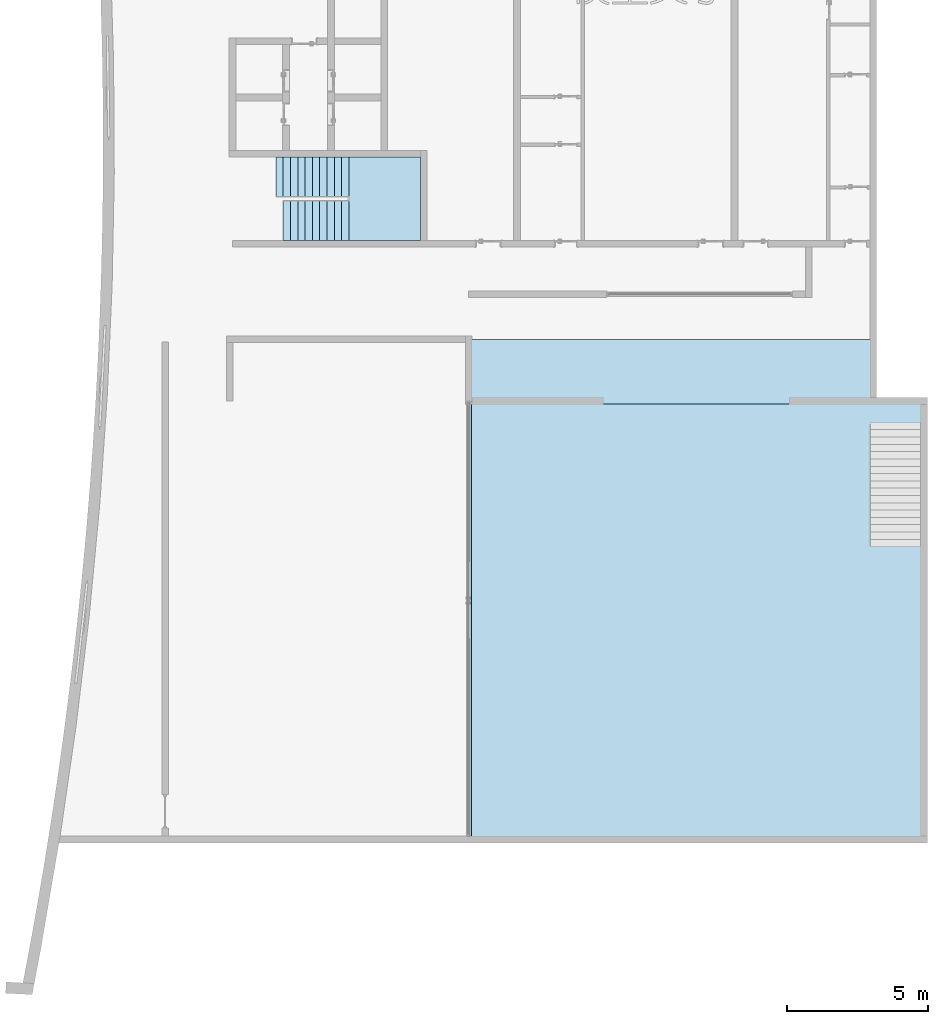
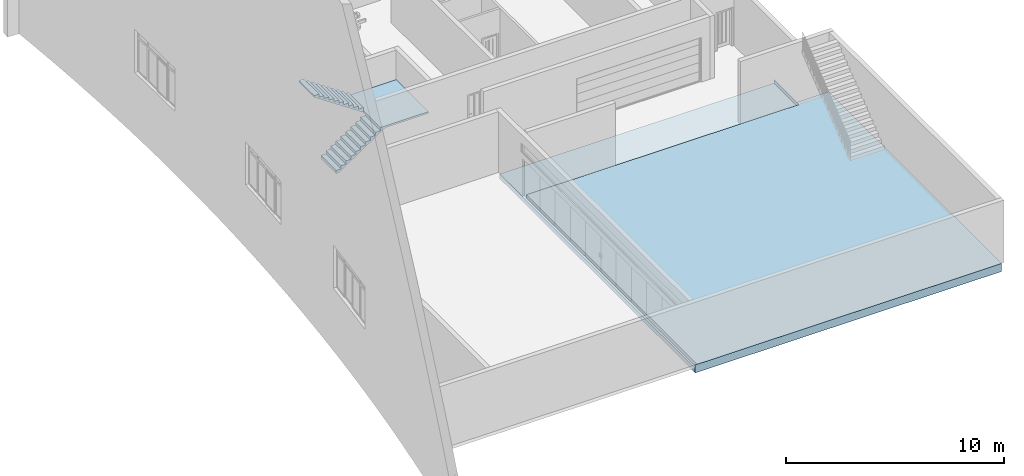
# One storey, part 22 of 24: 2 slabs, 1 element without a shape of its own.
"""IFC2X3 building model written with IfcOpenShell, lengths in millimetres."""

from ifc_helpers import new_model, entity, si_unit, converted_unit, derived_unit, direction, frame, origin, place, context, subcontext, project, spatial, faceted_brep, material, material_list, element, aggregate, save


model = new_model("IFC2X3")

# Units and contexts
model_context = context("Model", 3, precision=0.01, world=origin(), true_north=direction((6.12303176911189e-17, 1.0)))
body_context = subcontext(model_context, "Body", "Model", "MODEL_VIEW")
ifc_project = project(units=[si_unit("LENGTHUNIT", "METRE", prefix="MILLI"), si_unit("AREAUNIT", "SQUARE_METRE"), si_unit("VOLUMEUNIT", "CUBIC_METRE"), converted_unit("PLANEANGLEUNIT", "DEGREE", entity("IfcRatioMeasure", 0.0174532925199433), si_unit("PLANEANGLEUNIT", "RADIAN"), dimensions=[0, 0, 0, 0, 0, 0, 0]), si_unit("MASSUNIT", "GRAM", prefix="KILO"), derived_unit("MASSDENSITYUNIT", [(si_unit("MASSUNIT", "GRAM", prefix="KILO"), 1), (si_unit("LENGTHUNIT", "METRE"), -3)]), si_unit("TIMEUNIT", "SECOND"), si_unit("FREQUENCYUNIT", "HERTZ"), si_unit("THERMODYNAMICTEMPERATUREUNIT", "DEGREE_CELSIUS"), derived_unit("THERMALTRANSMITTANCEUNIT", [(si_unit("MASSUNIT", "GRAM", prefix="KILO"), 1), (si_unit("THERMODYNAMICTEMPERATUREUNIT", "KELVIN"), -1), (si_unit("TIMEUNIT", "SECOND"), -3)]), derived_unit("VOLUMETRICFLOWRATEUNIT", [(si_unit("LENGTHUNIT", "METRE"), 3), (si_unit("TIMEUNIT", "SECOND"), -1)]), si_unit("ELECTRICCURRENTUNIT", "AMPERE"), si_unit("ELECTRICVOLTAGEUNIT", "VOLT"), si_unit("POWERUNIT", "WATT"), si_unit("FORCEUNIT", "NEWTON", prefix="KILO"), si_unit("ILLUMINANCEUNIT", "LUX"), si_unit("LUMINOUSFLUXUNIT", "LUMEN"), si_unit("LUMINOUSINTENSITYUNIT", "CANDELA"), derived_unit("USERDEFINED", [(si_unit("MASSUNIT", "GRAM", prefix="KILO"), -1), (si_unit("LENGTHUNIT", "METRE"), -2), (si_unit("TIMEUNIT", "SECOND"), 3), (si_unit("LUMINOUSFLUXUNIT", "LUMEN"), 1)]), derived_unit("LINEARVELOCITYUNIT", [(si_unit("LENGTHUNIT", "METRE"), 1), (si_unit("TIMEUNIT", "SECOND"), -1)]), si_unit("PRESSUREUNIT", "PASCAL"), derived_unit("USERDEFINED", [(si_unit("LENGTHUNIT", "METRE"), -2), (si_unit("MASSUNIT", "GRAM", prefix="KILO"), 1), (si_unit("TIMEUNIT", "SECOND"), -2)])], contexts=[model_context])

# Site, building, storey
site_placement = place(None, origin())
site = spatial("IfcSite", under=ifc_project, at=site_placement, Name="表面", CompositionType="ELEMENT")
building_placement = place(site_placement, origin())
building = spatial("IfcBuilding", under=site, at=building_placement, CompositionType="ELEMENT")
storey_placement = place(building_placement, frame((0.0, 0.0, -3500.0)))
storey = spatial("IfcBuildingStorey", under=building, at=storey_placement, Name="-1F", CompositionType="ELEMENT", Elevation=-3500.0)

# Stair, slab
stair_placement = place(storey_placement, origin())
stair = element("IfcStair", 1, at=stair_placement, inside=storey, ShapeType="NOTDEFINED")
ifc_material_1 = material(Name="混凝土 - 现场浇注")
slab_1_placement = place(stair_placement, origin())
slab_1 = element("IfcSlab", 2, at=slab_1_placement, material=ifc_material_1, Name="楼梯:整体式楼梯:1", ObjectType="楼梯:整体式楼梯", PredefinedType="LANDING", context=body_context, shape_type="Brep", body=[
    faceted_brep([(-10086.9773737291, -7187.84591297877, 0.0), (-7635.54880230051, -7187.84591297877, 1650.0), (-7635.54880230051, -8587.84591297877, 1650.0), (-7890.24991264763, -8587.84591297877, 1478.56656034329), (-10086.9773737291, -8587.84591297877, 0.0), (-7890.24991264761, -7027.84591297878, 1650.0), (-7884.95102299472, -7027.84591297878, 1650.0), (-7884.95102299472, -5627.84591297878, 1650.0), (-5350.24991264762, -5627.84591297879, 1650.0), (-5350.24991264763, -8587.84591297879, 1650.0), (-7890.24991264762, -7187.84591297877, 1650.0), (-7890.24991264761, -7027.84591297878, 1653.56656034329), (-10490.2499126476, -7027.84591297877, 3403.56656034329), (-10490.2499126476, -5627.84591297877, 3403.56656034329), (-9970.24991264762, -7187.84591297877, 175.0), (-10230.2499126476, -7187.84591297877, 175.0), (-10230.2499126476, -8587.84591297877, 175.0), (-9970.24991264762, -8587.84591297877, 175.0), (-9970.24991264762, -7187.84591297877, 350.0), (-9710.24991264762, -7187.84591297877, 350.0), (-9710.24991264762, -7187.84591297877, 525.0), (-9450.24991264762, -7187.84591297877, 525.0), (-9450.24991264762, -7187.84591297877, 700.0), (-9190.24991264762, -7187.84591297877, 700.0), (-9190.24991264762, -7187.84591297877, 875.0), (-8930.24991264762, -7187.84591297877, 875.0), (-8930.24991264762, -7187.84591297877, 1050.0), (-8670.24991264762, -7187.84591297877, 1050.0), (-8670.24991264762, -7187.84591297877, 1225.0), (-8410.24991264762, -7187.84591297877, 1225.0), (-8410.24991264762, -7187.84591297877, 1400.0), (-8150.24991264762, -7187.84591297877, 1400.0), (-8150.24991264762, -7187.84591297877, 1575.0), (-7890.24991264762, -7187.84591297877, 1575.0), (-10230.2499126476, -7187.84591297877, 0.0), (-10230.2499126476, -8587.84591297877, 0.0), (-5350.24991264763, -8587.84591297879, 1750.0), (-7890.24991264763, -8587.84591297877, 1750.0), (-7890.24991264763, -8587.84591297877, 1575.0), (-8150.24991264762, -8587.84591297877, 1575.0), (-8150.24991264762, -8587.84591297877, 1400.0), (-8410.24991264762, -8587.84591297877, 1400.0), (-8410.24991264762, -8587.84591297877, 1225.0), (-8670.24991264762, -8587.84591297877, 1225.0), (-8670.24991264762, -8587.84591297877, 1050.0), (-8930.24991264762, -8587.84591297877, 1050.0), (-8930.24991264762, -8587.84591297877, 875.0), (-9190.24991264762, -8587.84591297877, 875.0), (-9190.24991264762, -8587.84591297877, 700.0), (-9450.24991264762, -8587.84591297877, 700.0), (-9450.24991264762, -8587.84591297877, 525.0), (-9710.24991264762, -8587.84591297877, 525.0), (-9710.24991264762, -8587.84591297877, 350.0), (-9970.24991264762, -8587.84591297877, 350.0), (-5350.24991264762, -5627.84591297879, 1750.0), (-7890.24991264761, -5627.84591297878, 1750.0), (-7890.24991264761, -7027.84591297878, 1750.0), (-7890.24991264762, -7187.84591297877, 1750.0), (-10490.2499126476, -5627.84591297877, 3500.0), (-10230.2499126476, -5627.84591297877, 3500.0), (-10230.2499126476, -5627.84591297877, 3325.0), (-9970.24991264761, -5627.84591297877, 3325.0), (-9970.24991264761, -5627.84591297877, 3150.0), (-9710.24991264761, -5627.84591297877, 3150.0), (-9710.24991264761, -5627.84591297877, 2975.0), (-9450.24991264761, -5627.84591297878, 2975.0), (-9450.24991264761, -5627.84591297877, 2800.0), (-9190.24991264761, -5627.84591297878, 2800.0), (-9190.24991264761, -5627.84591297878, 2625.0), (-8930.24991264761, -5627.84591297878, 2625.0), (-8930.24991264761, -5627.84591297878, 2450.0), (-8670.24991264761, -5627.84591297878, 2450.0), (-8670.24991264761, -5627.84591297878, 2275.0), (-8410.24991264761, -5627.84591297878, 2275.0), (-8410.24991264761, -5627.84591297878, 2100.0), (-8150.24991264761, -5627.84591297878, 2100.0), (-8150.24991264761, -5627.84591297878, 1925.0), (-7890.24991264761, -5627.84591297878, 1925.0), (-8150.24991264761, -7027.84591297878, 1925.0), (-7890.24991264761, -7027.84591297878, 1925.0), (-8150.24991264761, -7027.84591297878, 2100.0), (-8410.24991264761, -7027.84591297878, 2100.0), (-8410.24991264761, -7027.84591297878, 2275.0), (-8670.24991264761, -7027.84591297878, 2275.0), (-8670.24991264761, -7027.84591297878, 2450.0), (-8930.24991264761, -7027.84591297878, 2450.0), (-8930.24991264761, -7027.84591297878, 2625.0), (-9190.24991264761, -7027.84591297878, 2625.0), (-9190.24991264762, -7027.84591297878, 2800.0), (-9450.24991264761, -7027.84591297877, 2800.0), (-9450.24991264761, -7027.84591297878, 2975.0), (-9710.24991264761, -7027.84591297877, 2975.0), (-9710.24991264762, -7027.84591297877, 3150.0), (-9970.24991264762, -7027.84591297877, 3150.0), (-9970.24991264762, -7027.84591297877, 3325.0), (-10230.2499126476, -7027.84591297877, 3325.0), (-10230.2499126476, -7027.84591297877, 3500.0), (-10490.2499126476, -7027.84591297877, 3500.0)], [[[0, 1, 2, 3, 4]], [[5, 6, 7, 8, 9, 2, 1, 10]], [[6, 5, 11]], [[7, 6, 11, 12, 13]], [[14, 15, 16, 17]], [[15, 14, 18, 19, 20, 21, 22, 23, 24, 25, 26, 27, 28, 29, 30, 31, 32, 33, 10, 1, 0, 34]], [[16, 15, 34, 35]], [[17, 16, 35, 4, 3, 2, 9, 36, 37, 38, 39, 40, 41, 42, 43, 44, 45, 46, 47, 48, 49, 50, 51, 52, 53]], [[19, 18, 53, 52]], [[14, 17, 53, 18]], [[21, 20, 51, 50]], [[20, 19, 52, 51]], [[23, 22, 49, 48]], [[22, 21, 50, 49]], [[25, 24, 47, 46]], [[24, 23, 48, 47]], [[27, 26, 45, 44]], [[26, 25, 46, 45]], [[29, 28, 43, 42]], [[28, 27, 44, 43]], [[31, 30, 41, 40]], [[30, 29, 42, 41]], [[33, 32, 39, 38]], [[32, 31, 40, 39]], [[37, 36, 54, 55, 56, 57]], [[57, 56, 11, 5, 10]], [[38, 37, 57, 10, 33]], [[54, 36, 9, 8]], [[55, 54, 8, 7, 13, 58, 59, 60, 61, 62, 63, 64, 65, 66, 67, 68, 69, 70, 71, 72, 73, 74, 75, 76, 77]], [[77, 76, 78, 79]], [[79, 78, 80, 81, 82, 83, 84, 85, 86, 87, 88, 89, 90, 91, 92, 93, 94, 95, 96, 97, 12, 11, 56]], [[56, 55, 77, 79]], [[75, 74, 81, 80]], [[76, 75, 80, 78]], [[73, 72, 83, 82]], [[74, 73, 82, 81]], [[71, 70, 85, 84]], [[72, 71, 84, 83]], [[69, 68, 87, 86]], [[70, 69, 86, 85]], [[67, 66, 89, 88]], [[68, 67, 88, 87]], [[65, 64, 91, 90]], [[66, 65, 90, 89]], [[63, 62, 93, 92]], [[64, 63, 92, 91]], [[61, 60, 95, 94]], [[62, 61, 94, 93]], [[35, 34, 0, 4]], [[59, 58, 97, 96]], [[60, 59, 96, 95]], [[97, 58, 13, 12]]]),
])
aggregate(stair, [slab_1])

# Slab
ifc_material_2 = material(Name="石材")
ifc_material_3 = material(Name="默认楼板")
ifc_material_list = material_list([ifc_material_2, ifc_material_3])
slab_2_placement = place(storey_placement, origin())
element("IfcSlab", 3, at=slab_2_placement, inside=storey, material=ifc_material_list, Name="楼板:室外广场", ObjectType="楼板:室外广场", PredefinedType="FLOOR", context=body_context, shape_type="Brep", body=[
    faceted_brep([(12569.7500873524, -14187.8459129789, -450.0), (12569.7500873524, -30027.8459129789, -450.0), (-3630.24991264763, -30027.8459129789, -450.0), (-3630.24991264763, -12107.8459129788, -450.0), (10889.7500873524, -12107.8459129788, -450.0), (10889.7500873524, -14187.8459129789, -450.0), (12569.7500873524, -30027.8459129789, 0.0), (12569.7500873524, -14187.8459129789, 0.0), (10889.7500873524, -14187.8459129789, 0.0), (10889.7500873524, -12107.8459129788, 0.0), (10869.7500873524, -12107.8459129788, 0.0), (10869.7500873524, -14407.8459129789, 0.0), (7989.75008735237, -14407.8459129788, 0.0), (-3530.24991264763, -14407.8459129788, 0.0), (-3530.24991264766, -30007.8459129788, 0.0), (-3630.24991264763, -30007.8459129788, 0.0), (-3630.24991264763, -30027.8459129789, 0.0), (-3630.24991264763, -30007.8459129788, -200.0), (-3630.24991264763, -12107.8459129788, -200.0), (10869.7500873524, -12107.8459129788, -200.0), (7989.75008735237, -14407.8459129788, -200.0), (10869.7500873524, -14407.8459129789, -200.0), (-3530.24991264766, -30007.8459129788, -200.0), (-3530.24991264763, -14407.8459129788, -200.0)], [[[0, 1, 2, 3, 4, 5]], [[6, 7, 8, 9, 10, 11, 12, 13, 14, 15, 16]], [[1, 0, 7, 6]], [[2, 1, 6, 16]], [[3, 2, 16, 15, 17, 18]], [[4, 3, 18, 19, 10, 9]], [[5, 4, 9, 8]], [[0, 5, 8, 7]], [[20, 21, 19, 18, 17, 22, 23]], [[21, 11, 10, 19]], [[21, 20, 12, 11]], [[20, 23, 13, 12]], [[23, 22, 14, 13]], [[14, 22, 17, 15]]]),
])

save(model, "model.ifc")
